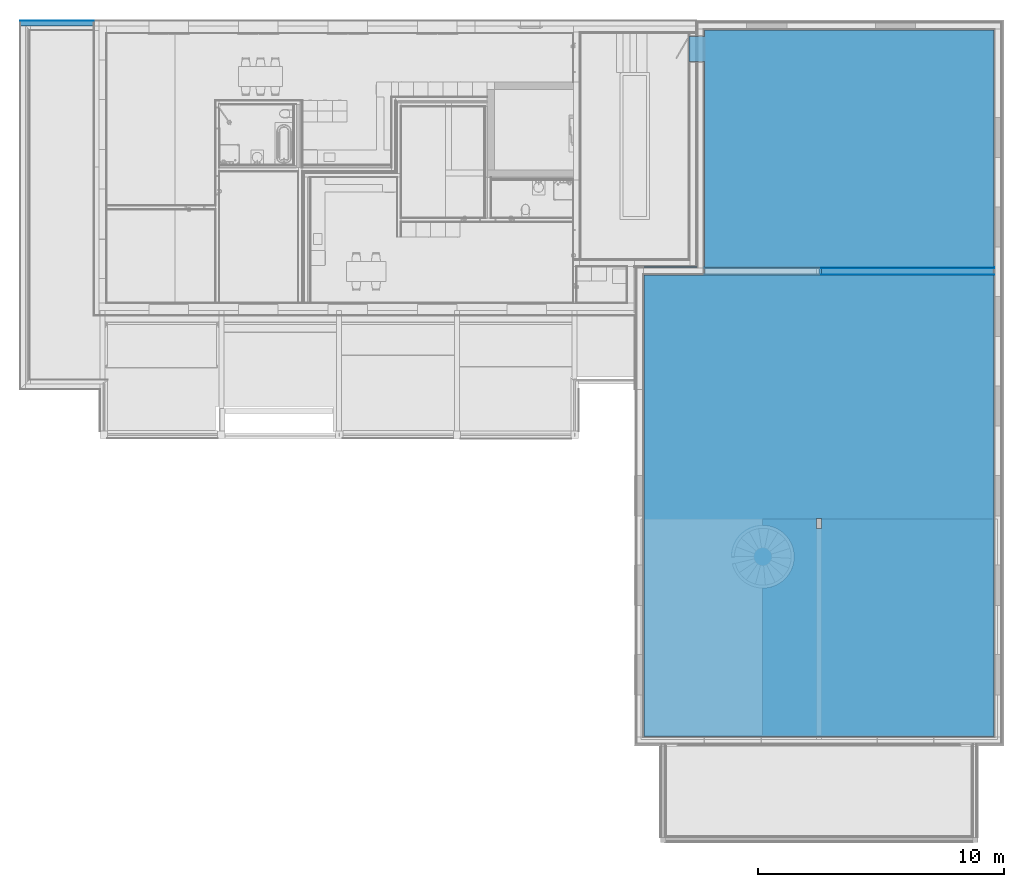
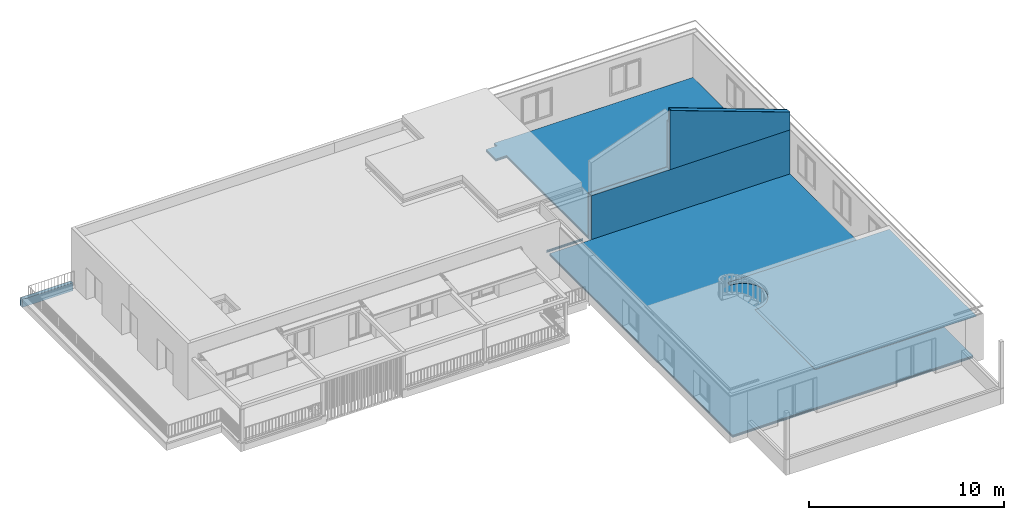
# One storey, part 17 of 36: 17 building element parts, 5 elements without a shape of their own.
"""IFC4 building model written with IfcOpenShell, lengths in millimetres."""

import ifcopenshell
import ifcopenshell.guid

model = None  # the IFC model being written
_history = None  # IfcOwnerHistory: only IFC2X3 demands one
_inside = {}  # id of a spatial element -> (the spatial element, [elements in it])
_under = {}  # id of a project, library or spatial element -> (it, [spatial elements below it])
_declared = {}  # id of a project -> (the project, [libraries it declares])
_typed = {}  # id of a type object -> (the type object, [elements of that type])
_made_of = {}  # id of a material, layer set ... -> (it, [elements and type objects made of it])


def new_model(schema):
    """Start an empty IFC model of exactly this schema.

    Asked for "IFC4X3", IfcOpenShell would pick the latest addendum, in which some entities
    have other attributes; the version numbers below select the first issue.
    IFC2X3 requires an IfcOwnerHistory on every rooted entity: one is made here for all.
    """
    global model, _history
    if schema == "IFC4X3":
        model = ifcopenshell.file(schema_version=(4, 3, 0, 0))
    else:
        model = ifcopenshell.file(schema=schema)
    _inside.clear()
    _under.clear()
    _declared.clear()
    _typed.clear()
    _made_of.clear()
    _history = None
    if model.schema == "IFC2X3":
        org = make("IfcOrganization", Name="unknown")
        user = make(
            "IfcPersonAndOrganization",
            ThePerson=make("IfcPerson", FamilyName="unknown"),
            TheOrganization=org,
        )
        app = make(
            "IfcApplication",
            ApplicationDeveloper=org,
            Version="unknown",
            ApplicationFullName="unknown",
            ApplicationIdentifier="unknown",
        )
        _history = make(
            "IfcOwnerHistory",
            OwningUser=user,
            OwningApplication=app,
            ChangeAction="ADDED",
            CreationDate=0,
        )
    return model


def make(cls, **values):
    """One entity of the class cls with the attributes given. An attribute that is None is left unset."""
    return model.create_entity(
        cls, **{name: value for name, value in values.items() if value is not None}
    )


def entity(cls, *values):
    """Any entity or typed value of the class cls, its attributes in the order of the schema. None: left unset."""
    e = model.create_entity(cls)
    for i, value in enumerate(values):
        if value is not None:
            e[i] = value
    return e


def rooted(cls, **values):
    """An entity with a GlobalId (a new one), such as an element, a storey or a relation."""
    return make(cls, GlobalId=ifcopenshell.guid.new(), OwnerHistory=_history, **values)


def si_unit(unit_type, name, prefix=None):
    """IfcSIUnit, for example si_unit("LENGTHUNIT", "METRE", prefix="MILLI")."""
    return make("IfcSIUnit", UnitType=unit_type, Prefix=prefix, Name=name)


def converted_unit(unit_type, name, factor, base, dimensions=None, offset=None):
    """IfcConversionBasedUnit, such as the inch: factor (a typed value) times the base unit."""
    return make(
        "IfcConversionBasedUnit"
        if offset is None
        else "IfcConversionBasedUnitWithOffset",
        ConversionOffset=offset,
        Dimensions=None
        if dimensions is None
        else entity("IfcDimensionalExponents", *dimensions),
        UnitType=unit_type,
        Name=name,
        ConversionFactor=make(
            "IfcMeasureWithUnit", ValueComponent=factor, UnitComponent=base
        ),
    )


def derived_unit(unit_type, elements):
    """IfcDerivedUnit: a product of units, each with its exponent."""
    return make(
        "IfcDerivedUnit",
        Elements=[
            make("IfcDerivedUnitElement", Unit=unit, Exponent=power)
            for unit, power in elements
        ],
        UnitType=unit_type,
    )


def assignment(units):
    """IfcUnitAssignment: the units of a project."""
    return None if units is None else make("IfcUnitAssignment", Units=units)


def point(xyz):
    """IfcCartesianPoint."""
    return None if xyz is None else make("IfcCartesianPoint", Coordinates=xyz)


def direction(xyz):
    """IfcDirection."""
    return None if xyz is None else make("IfcDirection", DirectionRatios=xyz)


def frame(location, z_axis=None, x_axis=None):
    """IfcAxis2Placement3D, a coordinate frame: its origin and axes. An axis left out is left unset."""
    return make(
        "IfcAxis2Placement3D",
        Location=point(location),
        Axis=direction(z_axis),
        RefDirection=direction(x_axis),
    )


def origin_with_axes():
    """The frame at (0, 0, 0) with the z axis (0, 0, 1) and the x axis (1, 0, 0) written out."""
    return frame((0.0, 0.0, 0.0), z_axis=(0.0, 0.0, 1.0), x_axis=(1.0, 0.0, 0.0))


def place(relative_to, where):
    """IfcLocalPlacement: puts the frame where relative to a parent placement (None: the world)."""
    return make(
        "IfcLocalPlacement", PlacementRelTo=relative_to, RelativePlacement=where
    )


def context(
    kind, dimensions, precision=None, world=None, true_north=None, identifier=None
):
    """IfcGeometricRepresentationContext, for example the 3D "Model" context."""
    return make(
        "IfcGeometricRepresentationContext",
        ContextIdentifier=identifier,
        ContextType=kind,
        CoordinateSpaceDimension=dimensions,
        Precision=precision,
        WorldCoordinateSystem=world,
        TrueNorth=true_north,
    )


def subcontext(parent, identifier, kind, view, scale=None):
    """IfcGeometricRepresentationSubContext, for example "Body" below "Model"."""
    return make(
        "IfcGeometricRepresentationSubContext",
        ContextIdentifier=identifier,
        ContextType=kind,
        ParentContext=parent,
        TargetScale=scale,
        TargetView=view,
    )


def project(units=None, contexts=None):
    """IfcProject with its units and contexts."""
    return rooted(
        "IfcProject",
        Name="project",
        RepresentationContexts=contexts,
        UnitsInContext=assignment(units),
    )


def spatial(cls, under=None, at=None, **own):
    """A site, building, storey or space (cls), placed at a placement, below another one or the project."""
    s = rooted(cls, ObjectPlacement=at, **own)
    if under is not None:
        _under.setdefault(under.id(), (under, []))[1].append(s)
    return s


def point_list(points):
    """IfcCartesianPointList2D or 3D."""
    cls = (
        "IfcCartesianPointList2D" if len(points[0]) == 2 else "IfcCartesianPointList3D"
    )
    return make(cls, CoordList=points)


def polygons(points, faces, closed=None, point_numbers=None):
    """IfcPolygonalFaceSet: a face is its outer loop, then its inner loops; points numbered from 1."""
    made = []
    for loops in faces:
        if len(loops) == 1:
            made.append(make("IfcIndexedPolygonalFace", CoordIndex=loops[0]))
        else:
            made.append(
                make(
                    "IfcIndexedPolygonalFaceWithVoids",
                    CoordIndex=loops[0],
                    InnerCoordIndices=loops[1:],
                )
            )
    return make(
        "IfcPolygonalFaceSet",
        Coordinates=point_list(points),
        Closed=closed,
        Faces=made,
        PnIndex=point_numbers,
    )


def shape(context_of_items, identifier, shape_type, items):
    """IfcShapeRepresentation: the items that make up one representation, for example the "Body"."""
    return make(
        "IfcShapeRepresentation",
        ContextOfItems=context_of_items,
        RepresentationIdentifier=identifier,
        RepresentationType=shape_type,
        Items=items,
    )


def material(Name=None, Category=None):
    """IfcMaterial."""
    return make("IfcMaterial", Name=Name, Category=Category)


def made_of(thing, what):
    """Note that an element or type object is made of a material, layer set ...; save() writes the relation."""
    if what is not None:
        _made_of.setdefault(what.id(), (what, []))[1].append(thing)
    return thing


def type_object(cls, material=None, **own):
    """A type object (cls), such as IfcWallType, which elements share."""
    return made_of(rooted(cls, **own), material)


def element(
    cls,
    number,
    at=None,
    inside=None,
    cuts=None,
    type_object=None,
    material=None,
    context=None,
    identifier="Body",
    shape_type=None,
    held_by="IfcProductDefinitionShape",
    body=None,
    shapes=None,
    **own,
):
    """One element of the class cls, such as IfcWall. Its Tag is "e" and its number.

    at: its placement. inside: the storey or other place that contains it. cuts: it is an
    opening in that element (IfcRelVoidsElement). A single representation is given by context,
    identifier, shape_type and body (its items); several are given by shapes. held_by: the class
    of the entity that holds the representations. save() writes the other relations.
    """
    e = rooted(cls, Tag="e%d" % number, ObjectPlacement=at, **own)
    if body is not None:
        shapes = [shape(context, identifier, shape_type, body)]
    if shapes is not None:
        e.Representation = make(held_by, Representations=shapes)
    if inside is not None:
        _inside.setdefault(inside.id(), (inside, []))[1].append(e)
    if cuts is not None:
        rooted(
            "IfcRelVoidsElement", RelatingBuildingElement=cuts, RelatedOpeningElement=e
        )
    if type_object is not None:
        _typed.setdefault(type_object.id(), (type_object, []))[1].append(e)
    return made_of(e, material)


def aggregate(whole, parts):
    """IfcRelAggregates: a whole, such as a stair, and the parts it consists of."""
    return rooted("IfcRelAggregates", RelatingObject=whole, RelatedObjects=parts)


def save(model, path):
    """Write the relations noted so far, then the file.

    IfcRelAggregates (storeys below a building ...), IfcRelContainedInSpatialStructure (elements
    in a storey), IfcRelDefinesByType, IfcRelAssociatesMaterial and IfcRelDeclares: one each for
    every whole, place, type object, material and project.
    """
    for whole, parts in _under.values():
        aggregate(whole, parts)
    for where, things in _inside.values():
        rooted(
            "IfcRelContainedInSpatialStructure",
            RelatedElements=things,
            RelatingStructure=where,
        )
    for kind, things in _typed.values():
        rooted("IfcRelDefinesByType", RelatedObjects=things, RelatingType=kind)
    for what, things in _made_of.values():
        rooted("IfcRelAssociatesMaterial", RelatedObjects=things, RelatingMaterial=what)
    for by, libraries in _declared.values():
        rooted("IfcRelDeclares", RelatingContext=by, RelatedDefinitions=libraries)
    model.write(path)


model = new_model("IFC4")

# Units and contexts
model_context = context("Model", 3, precision=0.01, world=origin_with_axes(), true_north=direction((0.0, 1.0)))
body_context = subcontext(model_context, "Body", "Model", "MODEL_VIEW")
ifc_project = project(units=[si_unit("LENGTHUNIT", "METRE", prefix="MILLI"), si_unit("AREAUNIT", "SQUARE_METRE"), si_unit("VOLUMEUNIT", "CUBIC_METRE"), converted_unit("PLANEANGLEUNIT", "DEGREE", entity("IfcPlaneAngleMeasure", 0.0174532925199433), si_unit("PLANEANGLEUNIT", "RADIAN"), dimensions=[0, 0, 0, 0, 0, 0, 0]), converted_unit("TIMEUNIT", "Year", entity("IfcTimeMeasure", 31557600.0), si_unit("TIMEUNIT", "SECOND"), dimensions=[0, 0, 1, 0, 0, 0, 0]), si_unit("MASSUNIT", "GRAM", prefix="KILO"), si_unit("THERMODYNAMICTEMPERATUREUNIT", "DEGREE_CELSIUS"), si_unit("LUMINOUSINTENSITYUNIT", "LUMEN"), si_unit("ENERGYUNIT", "JOULE", prefix="MEGA"), derived_unit("THERMALCONDUCTANCEUNIT", [(si_unit("POWERUNIT", "WATT"), 1), (si_unit("LENGTHUNIT", "METRE"), -1), (si_unit("THERMODYNAMICTEMPERATUREUNIT", "KELVIN"), -1)]), derived_unit("SPECIFICHEATCAPACITYUNIT", [(si_unit("ENERGYUNIT", "JOULE"), 1), (si_unit("MASSUNIT", "GRAM", prefix="KILO"), -1), (si_unit("THERMODYNAMICTEMPERATUREUNIT", "KELVIN"), -1)]), derived_unit("MASSDENSITYUNIT", [(si_unit("MASSUNIT", "GRAM", prefix="KILO"), 1), (si_unit("VOLUMEUNIT", "CUBIC_METRE"), -1)])], contexts=[model_context])

# Site, building, storey
site_placement = place(None, origin_with_axes())
site = spatial("IfcSite", under=ifc_project, at=site_placement, Name="Gelände", CompositionType="ELEMENT")
building_placement = place(site_placement, origin_with_axes())
building = spatial("IfcBuilding", under=site, at=building_placement, Name="Gebäude", CompositionType="ELEMENT")
storey_placement = place(building_placement, frame((0.0, 0.0, 8700.0), z_axis=(0.0, 0.0, 1.0), x_axis=(1.0, 0.0, 0.0)))
storey = spatial("IfcBuildingStorey", under=building, at=storey_placement, Name="Attika", CompositionType="ELEMENT", Elevation=8700.0)

# Wall, building element parts
wall_type = type_object("IfcWallType", Name="Aussenwand Typ 01 318", PredefinedType="NOTDEFINED")
wall_1_placement = place(storey_placement, frame((20776.99744477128, 27599.59728131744, 500.0), z_axis=(0.0, 0.0, 1.0), x_axis=(1.0, 0.0, 0.0)))
wall_1 = element("IfcWall", 1, at=wall_1_placement, inside=storey, type_object=wall_type, Name="Wand-014", PredefinedType="NOTDEFINED")
ifc_material_1 = material(Name="Verputz Innen")
building_element_part_1_placement = place(wall_1_placement, origin_with_axes())
building_element_part_1 = element("IfcBuildingElementPart", 2, at=building_element_part_1_placement, material=ifc_material_1, Name="Verputz Innen", PredefinedType="NOTDEFINED", context=body_context, shape_type="Tessellation", body=[
    polygons([(11773.00000000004, 307.9999999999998, 150.0000000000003), (11773.00000000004, 318.0000000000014, 150.0000000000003), (11773.00000000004, 318.0000000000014, 2900.0), (11773.00000000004, 307.9999999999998, 2900.0), (0.0, 318.0000000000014, 150.0000000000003), (0.0, 307.9999999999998, 150.0000000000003), (0.0, 318.0000000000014, 2900.0), (0.0, 307.9999999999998, 2900.0)], [[[1, 2, 3, 4]], [[5, 2, 1, 6]], [[2, 5, 7, 3]], [[8, 4, 3, 7]], [[6, 1, 4, 8]], [[5, 6, 8, 7]]], closed=True),
])
ifc_material_2 = material(Name="Gipsfaserplatte GFP")
building_element_part_2_placement = place(wall_1_placement, origin_with_axes())
building_element_part_2 = element("IfcBuildingElementPart", 3, at=building_element_part_2_placement, material=ifc_material_2, Name="Gipsfaserplatte GFP", PredefinedType="NOTDEFINED", context=body_context, shape_type="Tessellation", body=[
    polygons([(11773.00000000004, 307.9999999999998, 0.0), (11773.00000000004, 292.9999999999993, 0.0), (0.0, 292.9999999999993, 0.0), (0.0, 307.9999999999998, 0.0), (11773.00000000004, 307.9999999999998, 2900.0), (11773.00000000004, 292.9999999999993, 2900.0), (0.0, 292.9999999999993, 2900.0), (0.0, 307.9999999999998, 2900.0)], [[[1, 2, 3, 4]], [[1, 5, 6, 2]], [[2, 6, 7, 3]], [[4, 3, 7, 8]], [[5, 1, 4, 8]], [[6, 5, 8, 7]]], closed=True),
])
building_element_part_3_placement = place(wall_1_placement, origin_with_axes())
building_element_part_3 = element("IfcBuildingElementPart", 4, at=building_element_part_3_placement, material=ifc_material_2, Name="Gipsfaserplatte GFP", PredefinedType="NOTDEFINED", context=body_context, shape_type="Tessellation", body=[
    polygons([(11773.00000000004, 292.9999999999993, 0.0), (11773.00000000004, 278.0000000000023, 0.0), (0.0, 277.9999999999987, 0.0), (0.0, 292.9999999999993, 0.0), (11773.00000000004, 292.9999999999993, 2900.0), (11773.00000000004, 278.0000000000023, 2900.0), (0.0, 277.9999999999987, 2900.0), (0.0, 292.9999999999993, 2900.0)], [[[1, 2, 3, 4]], [[1, 5, 6, 2]], [[2, 6, 7, 3]], [[4, 3, 7, 8]], [[5, 1, 4, 8]], [[6, 5, 8, 7]]], closed=True),
])
ifc_material_3 = material(Name="Ständer Konstruktion gedämmt")
building_element_part_4_placement = place(wall_1_placement, origin_with_axes())
building_element_part_4 = element("IfcBuildingElementPart", 5, at=building_element_part_4_placement, material=ifc_material_3, Name="Ständer Konstruktion gedämmt", PredefinedType="NOTDEFINED", context=body_context, shape_type="Tessellation", body=[
    polygons([(11773.00000000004, 278.0000000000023, 0.0), (11773.00000000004, 18.00000000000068, 0.0), (0.0, 18.00000000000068, 0.0), (0.0, 277.9999999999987, 0.0), (11773.00000000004, 278.0000000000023, 2900.0), (11773.00000000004, 18.00000000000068, 2900.0), (0.0, 18.00000000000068, 2900.0), (0.0, 277.9999999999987, 2900.0)], [[[1, 2, 3, 4]], [[1, 5, 6, 2]], [[2, 6, 7, 3]], [[4, 3, 7, 8]], [[5, 1, 4, 8]], [[6, 5, 8, 7]]], closed=True),
])
ifc_material_4 = material(Name="Grobspanplatte-OSB")
building_element_part_5_placement = place(wall_1_placement, origin_with_axes())
building_element_part_5 = element("IfcBuildingElementPart", 6, at=building_element_part_5_placement, material=ifc_material_4, Name="Grobspanplatte-OSB", PredefinedType="NOTDEFINED", context=body_context, shape_type="Tessellation", body=[
    polygons([(11773.00000000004, 18.00000000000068, 0.0), (11773.00000000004, 0.0, 0.0), (0.0, 0.0, 0.0), (0.0, 18.00000000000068, 0.0), (11773.00000000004, 18.00000000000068, 2900.0), (11773.00000000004, 0.0, 2900.0), (0.0, 0.0, 2900.0), (0.0, 18.00000000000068, 2900.0)], [[[1, 2, 3, 4]], [[1, 5, 6, 2]], [[2, 6, 7, 3]], [[4, 3, 7, 8]], [[5, 1, 4, 8]], [[6, 5, 8, 7]]], closed=True),
])
aggregate(wall_1, [building_element_part_1, building_element_part_2, building_element_part_3, building_element_part_4, building_element_part_5])

wall_2_placement = place(storey_placement, frame((25428.99744456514, 27599.59728131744, 3400.0), z_axis=(0.0, 0.0, 1.0), x_axis=(1.0, 0.0, 0.0)))
wall_2 = element("IfcWall", 7, at=wall_2_placement, inside=storey, type_object=wall_type, Name="Wand-014", PredefinedType="NOTDEFINED")
building_element_part_6_placement = place(wall_2_placement, origin_with_axes())
building_element_part_6 = element("IfcBuildingElementPart", 8, at=building_element_part_6_placement, material=ifc_material_2, Name="Gipsfaserplatte GFP", PredefinedType="NOTDEFINED", context=body_context, shape_type="Tessellation", body=[
    polygons([(0.0, 307.9999999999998, 2903.934870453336), (100.0000000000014, 307.9999999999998, 2903.934870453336), (100.0000000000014, 307.9999999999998, 3667.537846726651), (7121.000000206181, 307.9999999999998, 1112.102831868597), (7121.000000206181, 307.9999999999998, 0.0), (0.0, 307.9999999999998, 0.0), (0.0, 292.9999999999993, 2903.934870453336), (100.0000000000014, 292.9999999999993, 2903.934870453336), (100.0000000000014, 292.9999999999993, 3667.537846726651), (7121.000000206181, 292.9999999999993, 1112.102831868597), (7121.000000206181, 292.9999999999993, 0.0), (0.0, 292.9999999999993, 0.0)], [[[1, 2, 3, 4, 5, 6]], [[2, 1, 7, 8]], [[3, 2, 8, 9]], [[3, 9, 10, 4]], [[11, 5, 4, 10]], [[6, 5, 11, 12]], [[7, 1, 6, 12]], [[8, 7, 12, 11, 10, 9]]], closed=True),
])
building_element_part_7_placement = place(wall_2_placement, origin_with_axes())
building_element_part_7 = element("IfcBuildingElementPart", 9, at=building_element_part_7_placement, material=ifc_material_2, Name="Gipsfaserplatte GFP", PredefinedType="NOTDEFINED", context=body_context, shape_type="Tessellation", body=[
    polygons([(0.0, 292.9999999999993, 2903.934870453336), (100.0000000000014, 292.9999999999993, 2903.934870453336), (100.0000000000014, 292.9999999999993, 3667.537846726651), (7121.000000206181, 292.9999999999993, 1112.102831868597), (7121.000000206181, 292.9999999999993, 0.0), (0.0, 292.9999999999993, 0.0), (0.0, 277.9999999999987, 2903.934870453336), (100.0000000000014, 277.9999999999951, 2903.934870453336), (100.0000000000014, 277.9999999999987, 3667.537846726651), (7121.000000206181, 277.9999999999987, 1112.102831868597), (7121.000000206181, 277.9999999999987, 0.0), (0.0, 277.9999999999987, 0.0)], [[[1, 2, 3, 4, 5, 6]], [[2, 1, 7, 8]], [[3, 2, 8, 9]], [[3, 9, 10, 4]], [[11, 5, 4, 10]], [[6, 5, 11, 12]], [[7, 1, 6, 12]], [[8, 7, 12, 11, 10, 9]]], closed=True),
])
building_element_part_8_placement = place(wall_2_placement, origin_with_axes())
building_element_part_8 = element("IfcBuildingElementPart", 10, at=building_element_part_8_placement, material=ifc_material_1, Name="Verputz Innen", PredefinedType="NOTDEFINED", context=body_context, shape_type="Tessellation", body=[
    polygons([(0.0, 318.0000000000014, 2903.934870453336), (100.0000000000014, 318.0000000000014, 2903.934870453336), (100.0000000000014, 318.0000000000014, 3667.537846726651), (7121.000000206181, 318.0000000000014, 1112.102831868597), (7121.000000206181, 318.0000000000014, 0.0), (0.0, 318.0000000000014, 0.0), (0.0, 307.9999999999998, 2903.934870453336), (100.0000000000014, 307.9999999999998, 2903.934870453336), (100.0000000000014, 307.9999999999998, 3667.537846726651), (7121.000000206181, 307.9999999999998, 1112.102831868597), (7121.000000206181, 307.9999999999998, 0.0), (0.0, 307.9999999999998, 0.0)], [[[1, 2, 3, 4, 5, 6]], [[2, 1, 7, 8]], [[3, 2, 8, 9]], [[3, 9, 10, 4]], [[11, 5, 4, 10]], [[6, 5, 11, 12]], [[7, 1, 6, 12]], [[8, 7, 12, 11, 10, 9]]], closed=True),
])
building_element_part_9_placement = place(wall_2_placement, origin_with_axes())
building_element_part_9 = element("IfcBuildingElementPart", 11, at=building_element_part_9_placement, material=ifc_material_3, Name="Ständer Konstruktion gedämmt", PredefinedType="NOTDEFINED", context=body_context, shape_type="Tessellation", body=[
    polygons([(0.0, 277.9999999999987, 2903.934870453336), (100.0000000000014, 278.0000000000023, 2903.934870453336), (100.0000000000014, 277.9999999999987, 3667.537846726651), (7121.000000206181, 277.9999999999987, 1112.102831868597), (7121.000000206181, 277.9999999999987, 0.0), (0.0, 277.9999999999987, 0.0), (0.0, 18.00000000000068, 2903.934870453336), (100.0000000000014, 18.00000000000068, 2903.934870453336), (100.0000000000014, 18.00000000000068, 3667.537846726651), (7121.000000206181, 18.00000000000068, 1112.102831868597), (7121.000000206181, 18.00000000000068, 0.0), (0.0, 18.00000000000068, 0.0)], [[[1, 2, 3, 4, 5, 6]], [[2, 1, 7, 8]], [[3, 2, 8, 9]], [[3, 9, 10, 4]], [[11, 5, 4, 10]], [[6, 5, 11, 12]], [[7, 1, 6, 12]], [[8, 7, 12, 11, 10, 9]]], closed=True),
])
building_element_part_10_placement = place(wall_2_placement, origin_with_axes())
building_element_part_10 = element("IfcBuildingElementPart", 12, at=building_element_part_10_placement, material=ifc_material_4, Name="Grobspanplatte-OSB", PredefinedType="NOTDEFINED", context=body_context, shape_type="Tessellation", body=[
    polygons([(0.0, 0.0, 3703.934870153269), (0.0, 0.0, 0.0), (7121.000000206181, 0.0, 0.0), (7121.000000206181, 0.0, 1112.102831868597), (0.0, 18.00000000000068, 0.0), (0.0, 18.00000000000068, 3703.934870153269), (7121.000000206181, 18.00000000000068, 0.0), (7121.000000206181, 18.00000000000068, 1112.102831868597)], [[[1, 2, 3, 4]], [[5, 2, 1, 6]], [[2, 5, 7, 3]], [[4, 3, 7, 8]], [[6, 1, 4, 8]], [[5, 6, 8, 7]]], closed=True),
])
aggregate(wall_2, [building_element_part_6, building_element_part_7, building_element_part_8, building_element_part_9, building_element_part_10])

# Slab, building element part
slab_type = type_object("IfcSlabType", Name="Geschossdecke Typ 01 256", PredefinedType="NOTDEFINED")
slab_placement = place(storey_placement, frame((23124.72367122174, 8696.59728131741, 3399.999896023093), z_axis=(0.0, 0.0, 1.0), x_axis=(1.0, 0.0, 0.0)))
slab = element("IfcSlab", 13, at=slab_placement, inside=storey, type_object=slab_type, Name="Deckennr.-073", PredefinedType="NOTDEFINED")
building_element_part_11_placement = place(slab_placement, origin_with_axes())
building_element_part_11 = element("IfcBuildingElementPart", 14, at=building_element_part_11_placement, material=ifc_material_4, Name="Grobspanplatte-OSB", PredefinedType="NOTDEFINED", context=body_context, shape_type="Tessellation", body=[
    polygons([(0.0, 0.0, -256.0000000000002), (9555.273872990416, 0.0, -256.0000000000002), (9555.273872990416, 0.0, -237.9999999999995), (0.0, 0.0, -237.9999999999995), (0.0, 6166.267711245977, -256.0000000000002), (56.37959635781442, 6165.525008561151, -256.0000000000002), (168.8288225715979, 6174.011085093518, -256.0000000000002), (280.0880146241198, 6192.402228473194, -256.0000000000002), (389.2864184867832, 6220.554503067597, -256.0000000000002), (495.5694085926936, 6258.247579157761, -256.0000000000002), (598.1051764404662, 6305.186457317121, -256.0000000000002), (696.0912406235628, 6361.003777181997, -256.0000000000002), (788.7607273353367, 6425.262692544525, -256.0000000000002), (875.3883721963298, 6497.460290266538, -256.0000000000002), (955.2961964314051, 6577.031526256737, -256.0000000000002), (1027.858812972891, 6663.353647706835, -256.0000000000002), (1092.50832096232, 6755.751066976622, -256.0000000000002), (1148.738750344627, 6853.500648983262, -256.0000000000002), (1196.110021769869, 6955.837370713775, -256.0000000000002), (1234.251390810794, 7061.960308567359, -256.0000000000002), (1262.864349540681, 7171.038906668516, -256.0000000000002), (1281.724962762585, 7282.219477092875, -256.0000000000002), (1290.685620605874, 7394.631881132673, -256.0000000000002), (1289.676193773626, 7507.396339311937, -256.0000000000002), (1278.704582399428, 7619.6303168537, -256.0000000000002), (1257.856654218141, 7730.455430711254, -256.0000000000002), (1227.295572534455, 7839.004324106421, -256.0000000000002), (1187.260519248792, 7944.427454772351, -256.0000000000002), (1138.064822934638, 8045.899743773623, -256.0000000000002), (1080.093506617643, 8142.627032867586, -256.0000000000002), (1013.800274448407, 8233.852299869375, -256.0000000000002), (939.7039608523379, 8318.861583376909, -256.0000000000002), (858.3844699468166, 8396.9895704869, -256.0000000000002), (770.478237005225, 8467.624803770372, -256.0000000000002), (676.6732474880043, 8530.214466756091, -256.0000000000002), (577.7036526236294, 8584.268710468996, -256.0000000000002), (474.3440236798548, 8629.364487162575, -256.0000000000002), (367.4032898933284, 8665.148861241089, -256.0000000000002), (257.7184075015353, 8691.341771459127, -256.0000000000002), (146.1478094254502, 8707.738222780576, -256.0000000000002), (16.77412635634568, 8713.072831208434, -256.0000000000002), (0.0, 8713.355102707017, -256.0000000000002), (0.0, 8966.072831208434, -256.0000000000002), (9555.273872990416, 8966.072831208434, -256.0000000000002), (9555.273872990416, 8966.072831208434, -237.9999999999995), (0.0, 8966.072831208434, -237.9999999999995), (0.0, 8713.355102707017, -237.9999999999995), (16.77412635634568, 8713.072831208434, -237.9999999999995), (146.1478094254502, 8707.738222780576, -237.9999999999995), (257.7184075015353, 8691.341771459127, -237.9999999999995), (367.4032898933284, 8665.148861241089, -237.9999999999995), (474.3440236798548, 8629.364487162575, -237.9999999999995), (577.7036526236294, 8584.268710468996, -237.9999999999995), (676.6732474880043, 8530.214466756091, -237.9999999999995), (770.478237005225, 8467.624803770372, -237.9999999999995), (858.3844699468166, 8396.9895704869, -237.9999999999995), (939.7039608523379, 8318.861583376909, -237.9999999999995), (1013.800274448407, 8233.852299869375, -237.9999999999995), (1080.093506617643, 8142.627032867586, -237.9999999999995), (1138.064822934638, 8045.899743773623, -237.9999999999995), (1187.260519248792, 7944.427454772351, -237.9999999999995), (1227.295572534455, 7839.004324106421, -237.9999999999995), (1257.856654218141, 7730.455430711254, -237.9999999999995), (1278.704582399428, 7619.6303168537, -237.9999999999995), (1289.676193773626, 7507.396339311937, -237.9999999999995), (1290.685620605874, 7394.631881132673, -237.9999999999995), (1281.724962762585, 7282.219477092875, -237.9999999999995), (1262.864349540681, 7171.038906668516, -237.9999999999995), (1234.251390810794, 7061.960308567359, -237.9999999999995), (1196.110021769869, 6955.837370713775, -237.9999999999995), (1148.738750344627, 6853.500648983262, -237.9999999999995), (1092.50832096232, 6755.751066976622, -237.9999999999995), (1027.858812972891, 6663.353647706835, -237.9999999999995), (955.2961964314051, 6577.031526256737, -237.9999999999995), (875.3883721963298, 6497.460290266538, -237.9999999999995), (788.7607273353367, 6425.262692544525, -237.9999999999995), (696.0912406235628, 6361.003777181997, -237.9999999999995), (598.1051764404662, 6305.186457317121, -237.9999999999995), (495.5694085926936, 6258.247579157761, -237.9999999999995), (389.2864184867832, 6220.554503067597, -237.9999999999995), (280.0880146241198, 6192.402228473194, -237.9999999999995), (168.8288225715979, 6174.011085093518, -237.9999999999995), (56.37959635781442, 6165.525008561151, -237.9999999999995), (0.0, 6166.267711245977, -237.9999999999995)], [[[1, 2, 3, 4]], [[1, 5, 6, 7, 8, 9, 10, 11, 12, 13, 14, 15, 16, 17, 18, 19, 20, 21, 22, 23, 24, 25, 26, 27, 28, 29, 30, 31, 32, 33, 34, 35, 36, 37, 38, 39, 40, 41, 42, 43, 44, 2]], [[2, 44, 45, 3]], [[4, 3, 45, 46, 47, 48, 49, 50, 51, 52, 53, 54, 55, 56, 57, 58, 59, 60, 61, 62, 63, 64, 65, 66, 67, 68, 69, 70, 71, 72, 73, 74, 75, 76, 77, 78, 79, 80, 81, 82, 83, 84]], [[5, 1, 4, 84]], [[6, 5, 84, 83]], [[7, 6, 83, 82]], [[8, 7, 82, 81]], [[9, 8, 81, 80]], [[10, 9, 80, 79]], [[11, 10, 79, 78]], [[12, 11, 78, 77]], [[13, 12, 77, 76]], [[14, 13, 76, 75]], [[15, 14, 75, 74]], [[16, 15, 74, 73]], [[17, 16, 73, 72]], [[18, 17, 72, 71]], [[19, 18, 71, 70]], [[20, 19, 70, 69]], [[21, 20, 69, 68]], [[22, 21, 68, 67]], [[23, 22, 67, 66]], [[24, 23, 66, 65]], [[25, 24, 65, 64]], [[26, 25, 64, 63]], [[27, 26, 63, 62]], [[28, 27, 62, 61]], [[29, 28, 61, 60]], [[30, 29, 60, 59]], [[31, 30, 59, 58]], [[32, 31, 58, 57]], [[33, 32, 57, 56]], [[34, 33, 56, 55]], [[35, 34, 55, 54]], [[36, 35, 54, 53]], [[37, 36, 53, 52]], [[38, 37, 52, 51]], [[39, 38, 51, 50]], [[40, 39, 50, 49]], [[41, 40, 49, 48]], [[42, 41, 48, 47]], [[43, 42, 47, 46]], [[44, 43, 46, 45]]], closed=True),
])
aggregate(slab, [building_element_part_11])

# Covering, building element parts
covering_type = type_object("IfcCoveringType", Name="Bodenaufbau Typ 01 150", PredefinedType="NOTDEFINED")
covering_placement = place(storey_placement, frame((18307.99744477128, 27947.59728131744, 500.0), z_axis=(0.0, 0.0, 1.0), x_axis=(1.0, 0.0, 0.0)))
covering = element("IfcCovering", 15, at=covering_placement, inside=storey, type_object=covering_type, Name="Decke-007", PredefinedType="NOTDEFINED")
ifc_material_5 = material(Name="Dämmung Innen")
building_element_part_12_placement = place(covering_placement, origin_with_axes())
building_element_part_12 = element("IfcBuildingElementPart", 16, at=building_element_part_12_placement, material=ifc_material_5, Name="Dämmung Innen", PredefinedType="NOTDEFINED", context=body_context, shape_type="Tessellation", body=[
    polygons([(0.0, -347.9999999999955, 0.0), (14242.00000000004, -347.9999999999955, 0.0), (14242.00000000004, -19121.00000000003, 0.0), (0.0, -19121.00000000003, 0.0), (7020.999999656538, -10657.92716879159, 0.0), (7220.999999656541, -10657.92716879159, 0.0), (7220.999999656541, -10257.92716879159, 0.0), (7020.999999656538, -10257.92716879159, 0.0), (0.0, -347.9999999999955, 50.00000000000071), (14242.00000000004, -347.9999999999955, 50.00000000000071), (14242.00000000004, -19121.00000000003, 50.00000000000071), (0.0, -19121.00000000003, 50.00000000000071), (7020.999999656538, -10657.92716879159, 50.00000000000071), (7220.999999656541, -10657.92716879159, 50.00000000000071), (7220.999999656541, -10257.92716879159, 50.00000000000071), (7020.999999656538, -10257.92716879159, 50.00000000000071)], [[[1, 2, 3, 4], [5, 6, 7, 8]], [[9, 10, 2, 1]], [[3, 2, 10, 11]], [[11, 12, 4, 3]], [[12, 9, 1, 4]], [[13, 14, 6, 5]], [[14, 15, 7, 6]], [[15, 16, 8, 7]], [[16, 13, 5, 8]], [[11, 10, 9, 12], [13, 16, 15, 14]]], closed=True),
    polygons([(2161.000000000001, -39.99999999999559, 50.00000000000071), (2161.000000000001, 0.0, 50.00000000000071), (0.0, 0.0, 50.00000000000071), (0.0, -39.99999999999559, 50.00000000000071), (2161.000000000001, 0.0, 0.0), (2161.000000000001, -39.99999999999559, 0.0), (0.0, 0.0, 0.0), (0.0, -39.99999999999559, 0.0)], [[[1, 2, 3, 4]], [[5, 2, 1, 6]], [[2, 5, 7, 3]], [[8, 4, 3, 7]], [[6, 1, 4, 8]], [[5, 6, 8, 7]]], closed=True),
    polygons([(2469.000000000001, -39.99999999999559, 50.00000000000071), (14242.00000000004, -39.99999999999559, 50.00000000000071), (14242.00000000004, 9620.99999999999, 50.00000000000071), (2469.000000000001, 9620.99999999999, 50.00000000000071), (2469.000000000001, 9344.999999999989, 50.00000000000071), (1821.000000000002, 9344.999999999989, 50.00000000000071), (1821.000000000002, 8334.999999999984, 50.00000000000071), (2469.000000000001, 8334.999999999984, 50.00000000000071), (2469.000000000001, 0.0, 50.00000000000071), (14242.00000000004, -39.99999999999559, 0.0), (2469.000000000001, -39.99999999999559, 0.0), (14242.00000000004, 9620.99999999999, 0.0), (2469.000000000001, 9620.99999999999, 0.0), (2469.000000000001, 9344.999999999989, 0.0), (1821.000000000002, 9344.999999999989, 0.0), (1821.000000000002, 8334.999999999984, 0.0), (2469.000000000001, 8334.999999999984, 0.0), (2469.000000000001, 0.0, 0.0)], [[[1, 2, 3, 4, 5, 6, 7, 8, 9]], [[10, 2, 1, 11]], [[2, 10, 12, 3]], [[3, 12, 13, 4]], [[4, 13, 14, 5]], [[5, 14, 15, 6]], [[6, 15, 16, 7]], [[7, 16, 17, 8]], [[18, 9, 8, 17]], [[11, 1, 9, 18]], [[10, 11, 18, 17, 16, 15, 14, 13, 12]]], closed=True),
])
ifc_material_6 = material(Name="Unterlagsboden")
building_element_part_13_placement = place(covering_placement, origin_with_axes())
building_element_part_13 = element("IfcBuildingElementPart", 17, at=building_element_part_13_placement, material=ifc_material_6, Name="Unterlagsboden", PredefinedType="NOTDEFINED", context=body_context, shape_type="Tessellation", body=[
    polygons([(0.0, -347.9999999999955, 80.00000000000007), (14242.00000000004, -347.9999999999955, 80.00000000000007), (14242.00000000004, -19121.00000000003, 80.00000000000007), (0.0, -19121.00000000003, 80.00000000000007), (7020.999999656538, -10657.92716879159, 80.00000000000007), (7220.999999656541, -10657.92716879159, 80.00000000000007), (7220.999999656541, -10257.92716879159, 80.00000000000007), (7020.999999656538, -10257.92716879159, 80.00000000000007), (0.0, -347.9999999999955, 134.9999999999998), (14242.00000000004, -347.9999999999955, 134.9999999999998), (14242.00000000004, -19121.00000000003, 134.9999999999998), (0.0, -19121.00000000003, 134.9999999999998), (7020.999999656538, -10657.92716879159, 134.9999999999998), (7220.999999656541, -10657.92716879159, 134.9999999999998), (7220.999999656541, -10257.92716879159, 134.9999999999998), (7020.999999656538, -10257.92716879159, 134.9999999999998)], [[[1, 2, 3, 4], [5, 6, 7, 8]], [[9, 10, 2, 1]], [[3, 2, 10, 11]], [[12, 4, 3, 11]], [[12, 9, 1, 4]], [[13, 14, 6, 5]], [[14, 15, 7, 6]], [[15, 16, 8, 7]], [[16, 13, 5, 8]], [[11, 10, 9, 12], [13, 16, 15, 14]]], closed=True),
    polygons([(2161.000000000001, -39.99999999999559, 134.9999999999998), (2161.000000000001, 0.0, 134.9999999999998), (0.0, 0.0, 134.9999999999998), (0.0, -39.99999999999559, 134.9999999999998), (2161.000000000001, 0.0, 80.00000000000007), (2161.000000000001, -39.99999999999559, 80.00000000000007), (0.0, 0.0, 80.00000000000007), (0.0, -39.99999999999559, 80.00000000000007)], [[[1, 2, 3, 4]], [[5, 2, 1, 6]], [[2, 5, 7, 3]], [[8, 4, 3, 7]], [[6, 1, 4, 8]], [[5, 6, 8, 7]]], closed=True),
    polygons([(2469.000000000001, -39.99999999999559, 134.9999999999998), (14242.00000000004, -39.99999999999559, 134.9999999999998), (14242.00000000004, 9620.99999999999, 134.9999999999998), (2469.000000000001, 9620.99999999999, 134.9999999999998), (2469.000000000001, 9344.999999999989, 134.9999999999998), (1821.000000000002, 9344.999999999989, 134.9999999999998), (1821.000000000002, 8334.999999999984, 134.9999999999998), (2469.000000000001, 8334.999999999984, 134.9999999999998), (2469.000000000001, 0.0, 134.9999999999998), (14242.00000000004, -39.99999999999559, 80.00000000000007), (2469.000000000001, -39.99999999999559, 80.00000000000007), (14242.00000000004, 9620.99999999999, 80.00000000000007), (2469.000000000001, 9620.99999999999, 80.00000000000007), (2469.000000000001, 9344.999999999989, 80.00000000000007), (1821.000000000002, 9344.999999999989, 80.00000000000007), (1821.000000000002, 8334.999999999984, 80.00000000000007), (2469.000000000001, 8334.999999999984, 80.00000000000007), (2469.000000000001, 0.0, 80.00000000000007)], [[[1, 2, 3, 4, 5, 6, 7, 8, 9]], [[10, 2, 1, 11]], [[2, 10, 12, 3]], [[12, 13, 4, 3]], [[13, 14, 5, 4]], [[14, 15, 6, 5]], [[15, 16, 7, 6]], [[16, 17, 8, 7]], [[18, 9, 8, 17]], [[11, 1, 9, 18]], [[10, 11, 18, 17, 16, 15, 14, 13, 12]]], closed=True),
])
ifc_material_7 = material(Name="Bodenbelag")
building_element_part_14_placement = place(covering_placement, origin_with_axes())
building_element_part_14 = element("IfcBuildingElementPart", 18, at=building_element_part_14_placement, material=ifc_material_7, Name="Bodenbelag", PredefinedType="NOTDEFINED", context=body_context, shape_type="Tessellation", body=[
    polygons([(0.0, -347.9999999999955, 134.9999999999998), (14242.00000000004, -347.9999999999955, 134.9999999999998), (14242.00000000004, -19121.00000000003, 134.9999999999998), (0.0, -19121.00000000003, 134.9999999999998), (7020.999999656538, -10657.92716879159, 134.9999999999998), (7220.999999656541, -10657.92716879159, 134.9999999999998), (7220.999999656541, -10257.92716879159, 134.9999999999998), (7020.999999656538, -10257.92716879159, 134.9999999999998), (0.0, -347.9999999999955, 150.0000000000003), (14242.00000000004, -347.9999999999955, 150.0000000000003), (14242.00000000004, -19121.00000000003, 150.0000000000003), (0.0, -19121.00000000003, 150.0000000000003), (7020.999999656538, -10657.92716879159, 150.0000000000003), (7220.999999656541, -10657.92716879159, 150.0000000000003), (7220.999999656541, -10257.92716879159, 150.0000000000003), (7020.999999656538, -10257.92716879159, 150.0000000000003)], [[[1, 2, 3, 4], [5, 6, 7, 8]], [[9, 10, 2, 1]], [[3, 2, 10, 11]], [[12, 4, 3, 11]], [[12, 9, 1, 4]], [[13, 14, 6, 5]], [[14, 15, 7, 6]], [[15, 16, 8, 7]], [[16, 13, 5, 8]], [[11, 10, 9, 12], [13, 16, 15, 14]]], closed=True),
    polygons([(2161.000000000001, -39.99999999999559, 150.0000000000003), (2161.000000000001, 0.0, 150.0000000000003), (0.0, 0.0, 150.0000000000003), (0.0, -39.99999999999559, 150.0000000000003), (2161.000000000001, 0.0, 134.9999999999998), (2161.000000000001, -39.99999999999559, 134.9999999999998), (0.0, 0.0, 134.9999999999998), (0.0, -39.99999999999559, 134.9999999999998)], [[[1, 2, 3, 4]], [[5, 2, 1, 6]], [[2, 5, 7, 3]], [[8, 4, 3, 7]], [[6, 1, 4, 8]], [[5, 6, 8, 7]]], closed=True),
    polygons([(2469.000000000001, -39.99999999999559, 150.0000000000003), (14242.00000000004, -39.99999999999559, 150.0000000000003), (14242.00000000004, 9620.99999999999, 150.0000000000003), (2469.000000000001, 9620.99999999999, 150.0000000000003), (2469.000000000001, 9344.999999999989, 150.0000000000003), (1821.000000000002, 9344.999999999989, 150.0000000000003), (1821.000000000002, 8334.999999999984, 150.0000000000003), (2469.000000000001, 8334.999999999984, 150.0000000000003), (2469.000000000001, 0.0, 150.0000000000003), (14242.00000000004, -39.99999999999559, 134.9999999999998), (2469.000000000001, -39.99999999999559, 134.9999999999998), (14242.00000000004, 9620.99999999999, 134.9999999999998), (2469.000000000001, 9620.99999999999, 134.9999999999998), (2469.000000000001, 9344.999999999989, 134.9999999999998), (1821.000000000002, 9344.999999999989, 134.9999999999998), (1821.000000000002, 8334.999999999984, 134.9999999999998), (2469.000000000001, 8334.999999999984, 134.9999999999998), (2469.000000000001, 0.0, 134.9999999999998)], [[[1, 2, 3, 4, 5, 6, 7, 8, 9]], [[10, 2, 1, 11]], [[2, 10, 12, 3]], [[12, 13, 4, 3]], [[13, 14, 5, 4]], [[14, 15, 6, 5]], [[15, 16, 7, 6]], [[16, 17, 8, 7]], [[18, 9, 8, 17]], [[11, 1, 9, 18]], [[10, 11, 18, 17, 16, 15, 14, 13, 12]]], closed=True),
])
ifc_material_8 = material(Name="Trittschalldämmung")
building_element_part_15_placement = place(covering_placement, origin_with_axes())
building_element_part_15 = element("IfcBuildingElementPart", 19, at=building_element_part_15_placement, material=ifc_material_8, Name="Trittschalldämmung", PredefinedType="NOTDEFINED", context=body_context, shape_type="Tessellation", body=[
    polygons([(0.0, -347.9999999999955, 50.00000000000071), (14242.00000000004, -347.9999999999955, 50.00000000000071), (14242.00000000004, -19121.00000000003, 50.00000000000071), (0.0, -19121.00000000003, 50.00000000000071), (7020.999999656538, -10657.92716879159, 50.00000000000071), (7220.999999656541, -10657.92716879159, 50.00000000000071), (7220.999999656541, -10257.92716879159, 50.00000000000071), (7020.999999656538, -10257.92716879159, 50.00000000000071), (0.0, -347.9999999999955, 80.00000000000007), (14242.00000000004, -347.9999999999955, 80.00000000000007), (14242.00000000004, -19121.00000000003, 80.00000000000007), (0.0, -19121.00000000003, 80.00000000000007), (7020.999999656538, -10657.92716879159, 80.00000000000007), (7220.999999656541, -10657.92716879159, 80.00000000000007), (7220.999999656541, -10257.92716879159, 80.00000000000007), (7020.999999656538, -10257.92716879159, 80.00000000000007)], [[[1, 2, 3, 4], [5, 6, 7, 8]], [[9, 10, 2, 1]], [[3, 2, 10, 11]], [[12, 4, 3, 11]], [[12, 9, 1, 4]], [[13, 14, 6, 5]], [[14, 15, 7, 6]], [[15, 16, 8, 7]], [[16, 13, 5, 8]], [[11, 10, 9, 12], [13, 16, 15, 14]]], closed=True),
    polygons([(2161.000000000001, -39.99999999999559, 80.00000000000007), (2161.000000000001, 0.0, 80.00000000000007), (0.0, 0.0, 80.00000000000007), (0.0, -39.99999999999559, 80.00000000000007), (2161.000000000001, 0.0, 50.00000000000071), (2161.000000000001, -39.99999999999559, 50.00000000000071), (0.0, 0.0, 50.00000000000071), (0.0, -39.99999999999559, 50.00000000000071)], [[[1, 2, 3, 4]], [[5, 2, 1, 6]], [[2, 5, 7, 3]], [[8, 4, 3, 7]], [[6, 1, 4, 8]], [[5, 6, 8, 7]]], closed=True),
    polygons([(2469.000000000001, -39.99999999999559, 80.00000000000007), (14242.00000000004, -39.99999999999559, 80.00000000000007), (14242.00000000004, 9620.99999999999, 80.00000000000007), (2469.000000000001, 9620.99999999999, 80.00000000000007), (2469.000000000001, 9344.999999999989, 80.00000000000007), (1821.000000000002, 9344.999999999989, 80.00000000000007), (1821.000000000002, 8334.999999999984, 80.00000000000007), (2469.000000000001, 8334.999999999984, 80.00000000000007), (2469.000000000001, 0.0, 80.00000000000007), (14242.00000000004, -39.99999999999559, 50.00000000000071), (2469.000000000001, -39.99999999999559, 50.00000000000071), (14242.00000000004, 9620.99999999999, 50.00000000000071), (2469.000000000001, 9620.99999999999, 50.00000000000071), (2469.000000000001, 9344.999999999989, 50.00000000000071), (1821.000000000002, 9344.999999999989, 50.00000000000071), (1821.000000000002, 8334.999999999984, 50.00000000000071), (2469.000000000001, 8334.999999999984, 50.00000000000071), (2469.000000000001, 0.0, 50.00000000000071)], [[[1, 2, 3, 4, 5, 6, 7, 8, 9]], [[10, 2, 1, 11]], [[2, 10, 12, 3]], [[12, 13, 4, 3]], [[13, 14, 5, 4]], [[14, 15, 6, 5]], [[15, 16, 7, 6]], [[16, 17, 8, 7]], [[18, 9, 8, 17]], [[11, 1, 9, 18]], [[10, 11, 18, 17, 16, 15, 14, 13, 12]]], closed=True),
])
aggregate(covering, [building_element_part_12, building_element_part_13, building_element_part_14, building_element_part_15])

# Curtain wall, building element parts
curtain_wall_type = type_object("IfcCurtainWallType", Name="Fassade Typ 01 - Kompaktfassade 210", PredefinedType="NOTDEFINED")
curtain_wall_placement = place(storey_placement, frame((-4071.004181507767, 37947.5972813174, 0.0), z_axis=(0.0, 0.0, 1.0), x_axis=(-1.0, 0.0, 0.0)))
curtain_wall = element("IfcCurtainWall", 20, at=curtain_wall_placement, inside=storey, type_object=curtain_wall_type, Name="Wand-014", PredefinedType="NOTDEFINED")
ifc_material_9 = material(Name="Dämmung Aussen")
building_element_part_16_placement = place(curtain_wall_placement, origin_with_axes())
building_element_part_16 = element("IfcBuildingElementPart", 21, at=building_element_part_16_placement, material=ifc_material_9, Name="Dämmung Aussen", PredefinedType="NOTDEFINED", context=body_context, shape_type="Tessellation", body=[
    polygons([(2990.0, 210.0000000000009, 500.0), (-9.999999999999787, 210.0000000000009, 500.0), (-9.999999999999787, 9.99999999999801, 500.0), (2989.999999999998, 9.99999999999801, 500.0), (2990.0, 210.0000000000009, 0.0), (-9.999999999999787, 210.0000000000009, 0.0), (-9.999999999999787, 9.99999999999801, 0.0), (2989.999999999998, 9.99999999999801, 0.0)], [[[1, 2, 3, 4]], [[5, 6, 2, 1]], [[6, 7, 3, 2]], [[4, 3, 7, 8]], [[1, 4, 8, 5]], [[8, 7, 6, 5]]], closed=True),
])
ifc_material_10 = material(Name="Zementputz Aussen")
building_element_part_17_placement = place(curtain_wall_placement, origin_with_axes())
building_element_part_17 = element("IfcBuildingElementPart", 22, at=building_element_part_17_placement, material=ifc_material_10, Name="Zementputz Aussen", PredefinedType="NOTDEFINED", context=body_context, shape_type="Tessellation", body=[
    polygons([(2999.999999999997, 9.99999999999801, 500.0), (0.0, 9.99999999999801, 500.0), (0.0, -1.859490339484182e-07, 500.0), (2999.999999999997, 0.0, 500.0), (2999.999999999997, 9.99999999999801, 0.0), (0.0, 9.99999999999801, 0.0), (0.0, 0.0, 0.0), (2999.999999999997, 0.0, 0.0)], [[[1, 2, 3, 4]], [[5, 6, 2, 1]], [[6, 7, 3, 2]], [[4, 3, 7, 8]], [[1, 4, 8, 5]], [[8, 7, 6, 5]]], closed=True),
])
aggregate(curtain_wall, [building_element_part_16, building_element_part_17])

save(model, "model.ifc")
